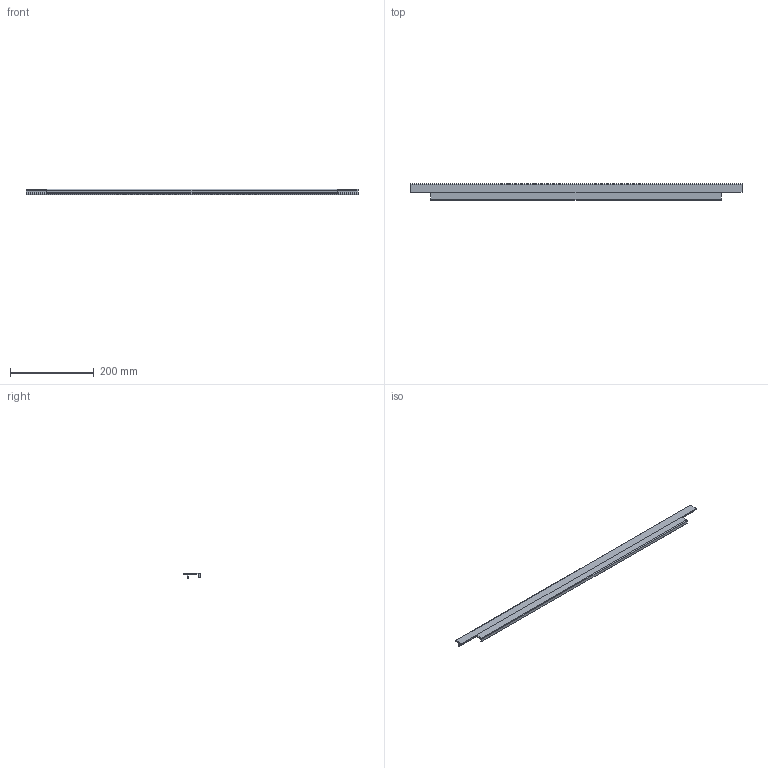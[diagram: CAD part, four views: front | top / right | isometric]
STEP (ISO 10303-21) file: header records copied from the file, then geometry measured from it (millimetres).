
FILE_DESCRIPTION( ( '' ), '1' );
FILE_NAME( 'C:/Documents and Settings/Nikhil/Desktop/Nik/Done/9105823.stp', '2013-10-23T08:21:33', ( '' ), ( '' ), ' ', ' ', ' ' );
FILE_SCHEMA( ( 'automotive_design' ) );
Length unit declared in the file: millimetre
Products named in the file (1): 1
Bounding box: 795 x 39 x 14 mm (x, y, z)
Volume: 116556.8 mm3; surface area: 88689.2 mm2
Topology: 1 solids, 1 shells, 40 faces, 112 edges, 74 vertices
Faces by surface type: plane 30, cylinder 10
Entity records: 2554 total; most frequent: STYLED_ITEM 227, PRESENTATION_STYLE_ASSIGNMENT 227, CARTESIAN_POINT 227, COLOUR_RGB 227, ORIENTED_EDGE 224, DIRECTION 214, EDGE_CURVE 112, CURVE_STYLE 112
